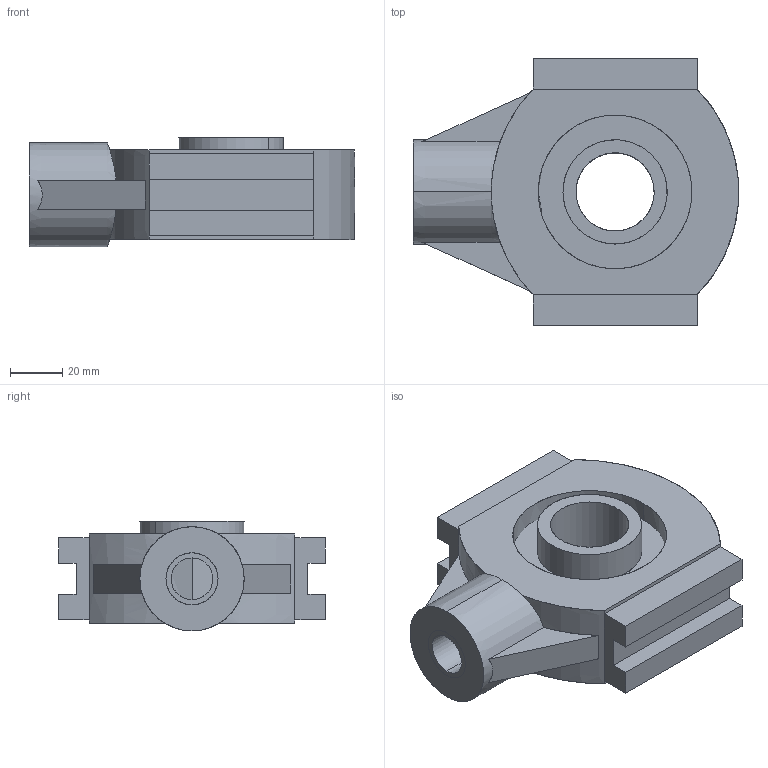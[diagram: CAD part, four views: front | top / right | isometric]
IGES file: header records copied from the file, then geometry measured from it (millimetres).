
Start section: SolidWorks IGES file using analytic representation for surfaces
Global section: file name: C:\Documents and Settings\ARGE\Desktop\yeni katalog tolgay düzenli\B kataloðu\RULMAN YATAKLARI\TPL rulman yataklari (kizak gerdirmeli)\246 TPL 206\export\245 TPL 206.IGS; native system: SolidWorks 2006 by SolidWorks Corporation; preprocessor: SolidWorks 2006 by SolidWorks Corporation; author: ARGE2; date: 060912.113852; units: millimetre
Bounding box: 125 x 102.5 x 42.2 mm (x, y, z)
Surface area: 48187.4 mm2 (no closed solid volume)
Topology: 0 solids, 0 shells, 65 faces, 1318 edges, 1318 vertices
Faces by surface type: bspline 42, revolution 23
